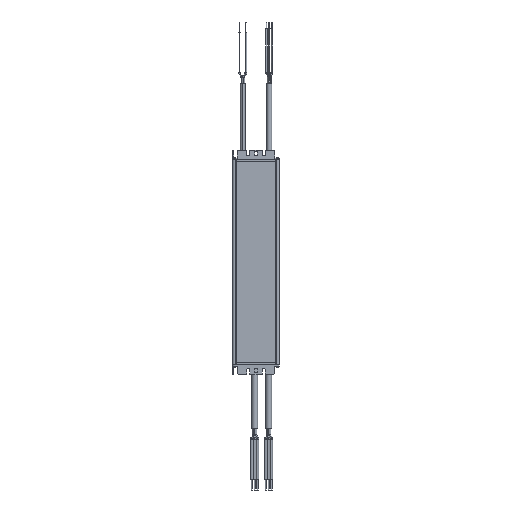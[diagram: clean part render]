
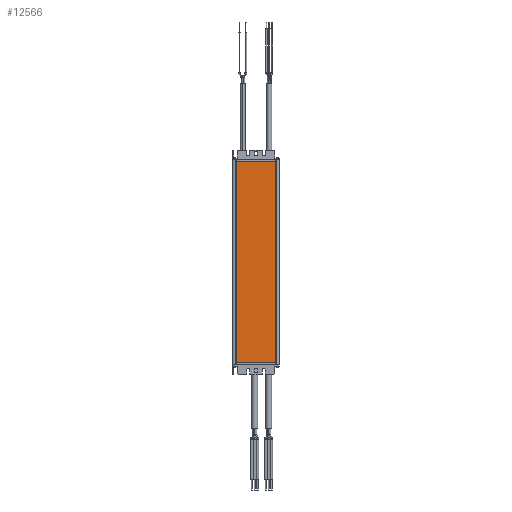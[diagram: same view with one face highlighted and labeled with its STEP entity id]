
A CAD part, front view. The second image highlights one B-rep face of the part: STEP entity #12566.
In plain terms, the highlighted planar face has unit normal (0, -1, 0).
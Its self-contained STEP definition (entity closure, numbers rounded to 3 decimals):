
#1029 = VERTEX_POINT ( 'NONE', #8524 ) ;
#1167 = EDGE_CURVE ( 'NONE', #7402, #4980, #21799, .T. ) ;
#1585 = EDGE_CURVE ( 'NONE', #21239, #1029, #17225, .T. ) ;
#2036 = DIRECTION ( 'NONE',  ( 0., 1., 0. ) ) ;
#3784 = VECTOR ( 'NONE', #20719, 1000. ) ;
#4980 = VERTEX_POINT ( 'NONE', #15835 ) ;
#5364 = ORIENTED_EDGE ( 'NONE', *, *, #19666, .T. ) ;
#5616 = VECTOR ( 'NONE', #8629, 1000. ) ;
#7245 = VECTOR ( 'NONE', #18843, 1000. ) ;
#7293 = ORIENTED_EDGE ( 'NONE', *, *, #20411, .T. ) ;
#7402 = VERTEX_POINT ( 'NONE', #9030 ) ;
#8524 = CARTESIAN_POINT ( 'NONE',  ( 29.401, -17.7, -148. ) ) ;
#8629 = DIRECTION ( 'NONE',  ( 0., 0., -1. ) ) ;
#9030 = CARTESIAN_POINT ( 'NONE',  ( 29.401, -17.7, 148. ) ) ;
#9773 = FACE_OUTER_BOUND ( 'NONE', #19602, .T. ) ;
#10231 = ORIENTED_EDGE ( 'NONE', *, *, #1585, .T. ) ;
#11751 = CARTESIAN_POINT ( 'NONE',  ( 29.401, -17.7, -148. ) ) ;
#12566 = ADVANCED_FACE ( 'NONE', ( #9773 ), #18348, .F. ) ;
#13082 = CARTESIAN_POINT ( 'NONE',  ( -30.2, -17.7, 150. ) ) ;
#15109 = AXIS2_PLACEMENT_3D ( 'NONE', #13082, #2036, #16529 ) ;
#15627 = CARTESIAN_POINT ( 'NONE',  ( 29.401, -17.7, 150. ) ) ;
#15835 = CARTESIAN_POINT ( 'NONE',  ( -29.401, -17.7, 148. ) ) ;
#16529 = DIRECTION ( 'NONE',  ( 0., 0., 1. ) ) ;
#17225 = LINE ( 'NONE', #11751, #20147 ) ;
#17545 = CARTESIAN_POINT ( 'NONE',  ( -29.401, -17.7, 150. ) ) ;
#17982 = CARTESIAN_POINT ( 'NONE',  ( -29.401, -17.7, -148. ) ) ;
#18348 = PLANE ( 'NONE',  #15109 ) ;
#18843 = DIRECTION ( 'NONE',  ( -1., 0., 0. ) ) ;
#18852 = LINE ( 'NONE', #15627, #3784 ) ;
#18914 = ORIENTED_EDGE ( 'NONE', *, *, #1167, .T. ) ;
#19013 = DIRECTION ( 'NONE',  ( 1., 0., 0. ) ) ;
#19602 = EDGE_LOOP ( 'NONE', ( #18914, #5364, #10231, #7293 ) ) ;
#19666 = EDGE_CURVE ( 'NONE', #4980, #21239, #21204, .T. ) ;
#20147 = VECTOR ( 'NONE', #19013, 1000. ) ;
#20411 = EDGE_CURVE ( 'NONE', #1029, #7402, #18852, .T. ) ;
#20706 = CARTESIAN_POINT ( 'NONE',  ( 29.401, -17.7, 148. ) ) ;
#20719 = DIRECTION ( 'NONE',  ( 0., 0., 1. ) ) ;
#21204 = LINE ( 'NONE', #17545, #5616 ) ;
#21239 = VERTEX_POINT ( 'NONE', #17982 ) ;
#21799 = LINE ( 'NONE', #20706, #7245 ) ;
